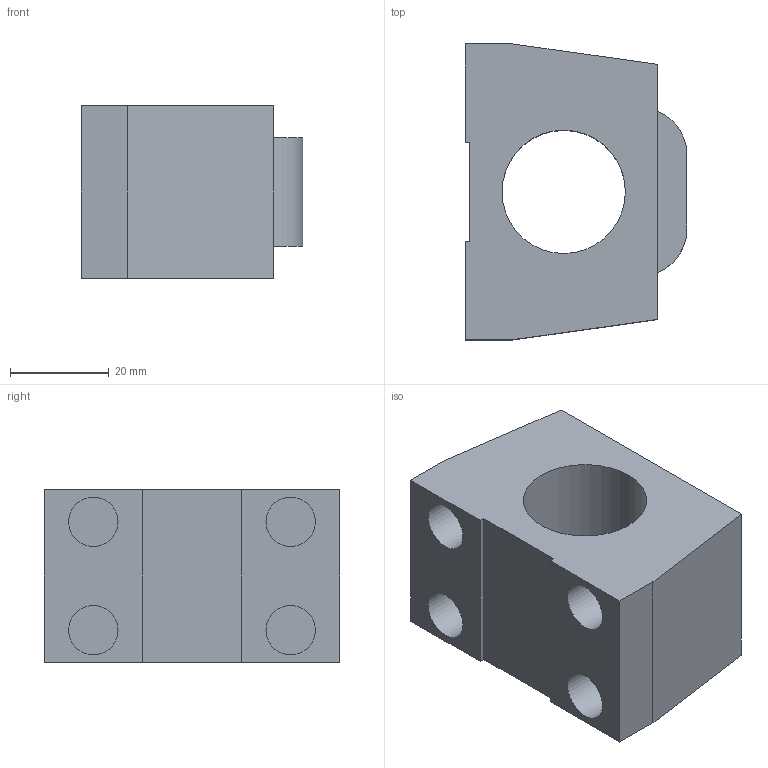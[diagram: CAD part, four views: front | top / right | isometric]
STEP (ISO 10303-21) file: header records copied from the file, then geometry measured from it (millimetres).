
FILE_DESCRIPTION(/* description */ (''),/* implementation_level */ '2;1');
FILE_NAME(/* name */ '25-5B1',/* time_stamp */ '2007-05-17T17:55:07+08:00',/* author */ (''),/* organization */ (''),/* preprocessor_version */ 'ST-DEVELOPER v9',/* originating_system */ 'UGS - NX 4.0',/* authorisation */ '');
FILE_SCHEMA (('CONFIG_CONTROL_DESIGN'));
Length unit declared in the file: millimetre
Products named in the file (1): 25-5B1
Bounding box: 45 x 60 x 35 mm (x, y, z)
Volume: 58701.8 mm3; surface area: 15222 mm2
Topology: 1 solids, 1 shells, 26 faces, 57 edges, 38 vertices
Faces by surface type: plane 19, cylinder 7
Full cylindrical faces by diameter (mm): 10 x4, 25 x1
Entity records: 780 total; most frequent: DIRECTION 120, CARTESIAN_POINT 117, ORIENTED_EDGE 104, EDGE_CURVE 52, AXIS2_PLACEMENT_3D 41, EDGE_LOOP 38, VERTEX_POINT 38, LINE 38
